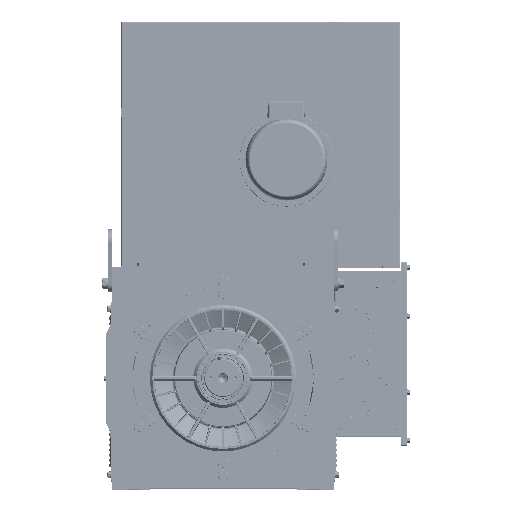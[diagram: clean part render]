
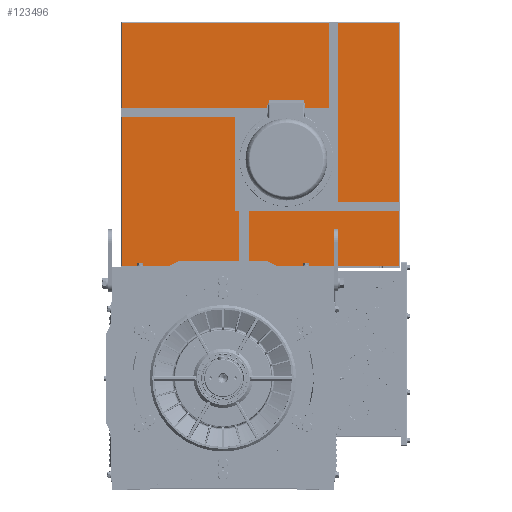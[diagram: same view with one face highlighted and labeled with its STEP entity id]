
A CAD part, top view. The second image highlights one B-rep face of the part: STEP entity #123496.
In plain terms, the highlighted planar face has unit normal (0, 0, 1).
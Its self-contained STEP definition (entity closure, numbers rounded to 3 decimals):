
#744 = DIRECTION ( 'NONE',  ( 1., 0., 0. ) ) ;
#914 = DIRECTION ( 'NONE',  ( 0., 1., 0. ) ) ;
#1088 = ORIENTED_EDGE ( 'NONE', *, *, #216921, .T. ) ;
#1156 = EDGE_CURVE ( 'NONE', #152392, #152392, #42126, .T. ) ;
#2730 = VERTEX_POINT ( 'NONE', #124070 ) ;
#4043 = CARTESIAN_POINT ( 'NONE',  ( -11.192, 257.558, 114. ) ) ;
#12160 = ORIENTED_EDGE ( 'NONE', *, *, #177265, .T. ) ;
#16294 = ORIENTED_EDGE ( 'NONE', *, *, #1156, .T. ) ;
#19502 = EDGE_CURVE ( 'NONE', #102224, #120006, #51169, .T. ) ;
#20150 = ORIENTED_EDGE ( 'NONE', *, *, #114545, .T. ) ;
#20656 = EDGE_LOOP ( 'NONE', ( #1088 ) ) ;
#22782 = DIRECTION ( 'NONE',  ( -1., 0., 0. ) ) ;
#22817 = VECTOR ( 'NONE', #106861, 1000. ) ;
#23272 = FACE_BOUND ( 'NONE', #227555, .T. ) ;
#24409 = CARTESIAN_POINT ( 'NONE',  ( 176.192, 257.558, 114. ) ) ;
#24433 = FACE_OUTER_BOUND ( 'NONE', #58818, .T. ) ;
#24972 = ORIENTED_EDGE ( 'NONE', *, *, #74618, .F. ) ;
#25603 = CARTESIAN_POINT ( 'NONE',  ( -11.192, 438.692, 114. ) ) ;
#25889 = AXIS2_PLACEMENT_3D ( 'NONE', #113373, #61195, #43440 ) ;
#25948 = LINE ( 'NONE', #171707, #135933 ) ;
#26526 = CIRCLE ( 'NONE', #159021, 6.25 ) ;
#35151 = EDGE_CURVE ( 'NONE', #188682, #188682, #205566, .T. ) ;
#36380 = CARTESIAN_POINT ( 'NONE',  ( 82.5, 345., 114. ) ) ;
#37566 = CARTESIAN_POINT ( 'NONE',  ( 443., 4., 114. ) ) ;
#39342 = EDGE_CURVE ( 'NONE', #2730, #136276, #116361, .T. ) ;
#39560 = ORIENTED_EDGE ( 'NONE', *, *, #35151, .T. ) ;
#41082 = FACE_BOUND ( 'NONE', #219986, .T. ) ;
#41442 = DIRECTION ( 'NONE',  ( 0., -1., 0. ) ) ;
#42126 = CIRCLE ( 'NONE', #193636, 6.25 ) ;
#43440 = DIRECTION ( 'NONE',  ( 0., 1., 0. ) ) ;
#45321 = ORIENTED_EDGE ( 'NONE', *, *, #72174, .T. ) ;
#47781 = ORIENTED_EDGE ( 'NONE', *, *, #39342, .T. ) ;
#49407 = AXIS2_PLACEMENT_3D ( 'NONE', #147527, #171170, #137952 ) ;
#49734 = DIRECTION ( 'NONE',  ( 0., 0., -1. ) ) ;
#51169 = LINE ( 'NONE', #198155, #22817 ) ;
#54294 = LINE ( 'NONE', #73205, #217042 ) ;
#58818 = EDGE_LOOP ( 'NONE', ( #47781, #72455, #233262, #45321 ) ) ;
#58845 = FACE_BOUND ( 'NONE', #158343, .T. ) ;
#61195 = DIRECTION ( 'NONE',  ( 0., 0., -1. ) ) ;
#61802 = CARTESIAN_POINT ( 'NONE',  ( 198., 345., 114. ) ) ;
#62087 = AXIS2_PLACEMENT_3D ( 'NONE', #161484, #195992, #141431 ) ;
#62385 = CARTESIAN_POINT ( 'NONE',  ( 176.192, 444.942, 114. ) ) ;
#71370 = VERTEX_POINT ( 'NONE', #198310 ) ;
#72174 = EDGE_CURVE ( 'NONE', #102224, #2730, #54294, .T. ) ;
#72455 = ORIENTED_EDGE ( 'NONE', *, *, #109881, .T. ) ;
#73205 = CARTESIAN_POINT ( 'NONE',  ( 443., 785., 114. ) ) ;
#74618 = EDGE_CURVE ( 'NONE', #221898, #221898, #122770, .T. ) ;
#77357 = AXIS2_PLACEMENT_3D ( 'NONE', #36380, #146470, #744 ) ;
#86368 = VECTOR ( 'NONE', #22782, 1000. ) ;
#90920 = DIRECTION ( 'NONE',  ( 0., 1., 0. ) ) ;
#94069 = EDGE_LOOP ( 'NONE', ( #99577 ) ) ;
#97876 = DIRECTION ( 'NONE',  ( 0., 0., -1. ) ) ;
#98607 = CIRCLE ( 'NONE', #49407, 6.25 ) ;
#99577 = ORIENTED_EDGE ( 'NONE', *, *, #194556, .T. ) ;
#101477 = AXIS2_PLACEMENT_3D ( 'NONE', #25603, #97876, #170189 ) ;
#102224 = VERTEX_POINT ( 'NONE', #37566 ) ;
#106428 = CARTESIAN_POINT ( 'NONE',  ( 215., 345., 114. ) ) ;
#106861 = DIRECTION ( 'NONE',  ( -1., 0., 0. ) ) ;
#109881 = EDGE_CURVE ( 'NONE', #136276, #120006, #25948, .T. ) ;
#113373 = CARTESIAN_POINT ( 'NONE',  ( 445., 785., 114. ) ) ;
#113411 = VERTEX_POINT ( 'NONE', #62385 ) ;
#114545 = EDGE_CURVE ( 'NONE', #202321, #202321, #141712, .T. ) ;
#114564 = FACE_BOUND ( 'NONE', #170160, .T. ) ;
#116361 = LINE ( 'NONE', #132981, #86368 ) ;
#120006 = VERTEX_POINT ( 'NONE', #120884 ) ;
#120884 = CARTESIAN_POINT ( 'NONE',  ( -443., 4., 114. ) ) ;
#122039 = DIRECTION ( 'NONE',  ( 0., 1., 0. ) ) ;
#122770 = CIRCLE ( 'NONE', #77357, 115.5 ) ;
#123496 = ADVANCED_FACE ( 'NONE', ( #221282, #204661, #205836, #189254, #58845, #203495, #114564, #23272, #41082, #24433 ), #186948, .F. ) ;
#123513 = EDGE_CURVE ( 'NONE', #146260, #146260, #188727, .T. ) ;
#124070 = CARTESIAN_POINT ( 'NONE',  ( 443., 783., 114. ) ) ;
#124570 = CARTESIAN_POINT ( 'NONE',  ( -443., 783., 114. ) ) ;
#127572 = AXIS2_PLACEMENT_3D ( 'NONE', #174686, #224592, #191405 ) ;
#132981 = CARTESIAN_POINT ( 'NONE',  ( 445., 783., 114. ) ) ;
#135933 = VECTOR ( 'NONE', #41442, 1000. ) ;
#136276 = VERTEX_POINT ( 'NONE', #124570 ) ;
#137952 = DIRECTION ( 'NONE',  ( 0., 1., 0. ) ) ;
#138907 = CIRCLE ( 'NONE', #127572, 6.25 ) ;
#141431 = DIRECTION ( 'NONE',  ( 0., 1., 0. ) ) ;
#141712 = CIRCLE ( 'NONE', #175749, 6.25 ) ;
#142793 = CARTESIAN_POINT ( 'NONE',  ( -11.192, 444.942, 114. ) ) ;
#146260 = VERTEX_POINT ( 'NONE', #142793 ) ;
#146470 = DIRECTION ( 'NONE',  ( 0., 0., 1. ) ) ;
#147527 = CARTESIAN_POINT ( 'NONE',  ( -50., 345., 114. ) ) ;
#148644 = CARTESIAN_POINT ( 'NONE',  ( -50., 351.25, 114. ) ) ;
#149004 = DIRECTION ( 'NONE',  ( 0., 0., -1. ) ) ;
#152392 = VERTEX_POINT ( 'NONE', #224781 ) ;
#158343 = EDGE_LOOP ( 'NONE', ( #16294 ) ) ;
#159021 = AXIS2_PLACEMENT_3D ( 'NONE', #106428, #195413, #90920 ) ;
#161484 = CARTESIAN_POINT ( 'NONE',  ( -11.192, 251.308, 114. ) ) ;
#164270 = CIRCLE ( 'NONE', #62087, 6.25 ) ;
#165602 = CARTESIAN_POINT ( 'NONE',  ( 82.5, 212.5, 114. ) ) ;
#167420 = EDGE_LOOP ( 'NONE', ( #186489 ) ) ;
#169343 = CARTESIAN_POINT ( 'NONE',  ( 176.192, 251.308, 114. ) ) ;
#170160 = EDGE_LOOP ( 'NONE', ( #39560 ) ) ;
#170189 = DIRECTION ( 'NONE',  ( 0., 1., 0. ) ) ;
#171100 = VERTEX_POINT ( 'NONE', #148644 ) ;
#171170 = DIRECTION ( 'NONE',  ( 0., 0., -1. ) ) ;
#171707 = CARTESIAN_POINT ( 'NONE',  ( -443., 785., 114. ) ) ;
#174174 = CARTESIAN_POINT ( 'NONE',  ( 82.5, 477.5, 114. ) ) ;
#174686 = CARTESIAN_POINT ( 'NONE',  ( 176.192, 438.692, 114. ) ) ;
#175252 = AXIS2_PLACEMENT_3D ( 'NONE', #165602, #149004, #914 ) ;
#175749 = AXIS2_PLACEMENT_3D ( 'NONE', #169343, #222727, #223940 ) ;
#177265 = EDGE_CURVE ( 'NONE', #171100, #171100, #98607, .T. ) ;
#181063 = EDGE_CURVE ( 'NONE', #188984, #188984, #164270, .T. ) ;
#186489 = ORIENTED_EDGE ( 'NONE', *, *, #181063, .T. ) ;
#186948 = PLANE ( 'NONE',  #25889 ) ;
#188526 = EDGE_LOOP ( 'NONE', ( #20150 ) ) ;
#188682 = VERTEX_POINT ( 'NONE', #233311 ) ;
#188727 = CIRCLE ( 'NONE', #101477, 6.25 ) ;
#188984 = VERTEX_POINT ( 'NONE', #4043 ) ;
#189254 = FACE_BOUND ( 'NONE', #167420, .T. ) ;
#191405 = DIRECTION ( 'NONE',  ( 0., 1., 0. ) ) ;
#192595 = ORIENTED_EDGE ( 'NONE', *, *, #123513, .T. ) ;
#193636 = AXIS2_PLACEMENT_3D ( 'NONE', #174174, #49734, #122039 ) ;
#194556 = EDGE_CURVE ( 'NONE', #71370, #71370, #26526, .T. ) ;
#195413 = DIRECTION ( 'NONE',  ( 0., 0., -1. ) ) ;
#195992 = DIRECTION ( 'NONE',  ( 0., 0., -1. ) ) ;
#198155 = CARTESIAN_POINT ( 'NONE',  ( 445., 4., 114. ) ) ;
#198310 = CARTESIAN_POINT ( 'NONE',  ( 215., 351.25, 114. ) ) ;
#200092 = DIRECTION ( 'NONE',  ( 0., 1., 0. ) ) ;
#202321 = VERTEX_POINT ( 'NONE', #24409 ) ;
#203495 = FACE_BOUND ( 'NONE', #94069, .T. ) ;
#204661 = FACE_BOUND ( 'NONE', #20656, .T. ) ;
#205566 = CIRCLE ( 'NONE', #175252, 6.25 ) ;
#205836 = FACE_BOUND ( 'NONE', #188526, .T. ) ;
#216921 = EDGE_CURVE ( 'NONE', #113411, #113411, #138907, .T. ) ;
#217042 = VECTOR ( 'NONE', #200092, 1000. ) ;
#219986 = EDGE_LOOP ( 'NONE', ( #24972 ) ) ;
#221282 = FACE_BOUND ( 'NONE', #226417, .T. ) ;
#221898 = VERTEX_POINT ( 'NONE', #61802 ) ;
#222727 = DIRECTION ( 'NONE',  ( 0., 0., -1. ) ) ;
#223940 = DIRECTION ( 'NONE',  ( 0., 1., 0. ) ) ;
#224592 = DIRECTION ( 'NONE',  ( 0., 0., -1. ) ) ;
#224781 = CARTESIAN_POINT ( 'NONE',  ( 82.5, 483.75, 114. ) ) ;
#226417 = EDGE_LOOP ( 'NONE', ( #192595 ) ) ;
#227555 = EDGE_LOOP ( 'NONE', ( #12160 ) ) ;
#233262 = ORIENTED_EDGE ( 'NONE', *, *, #19502, .F. ) ;
#233311 = CARTESIAN_POINT ( 'NONE',  ( 82.5, 218.75, 114. ) ) ;
